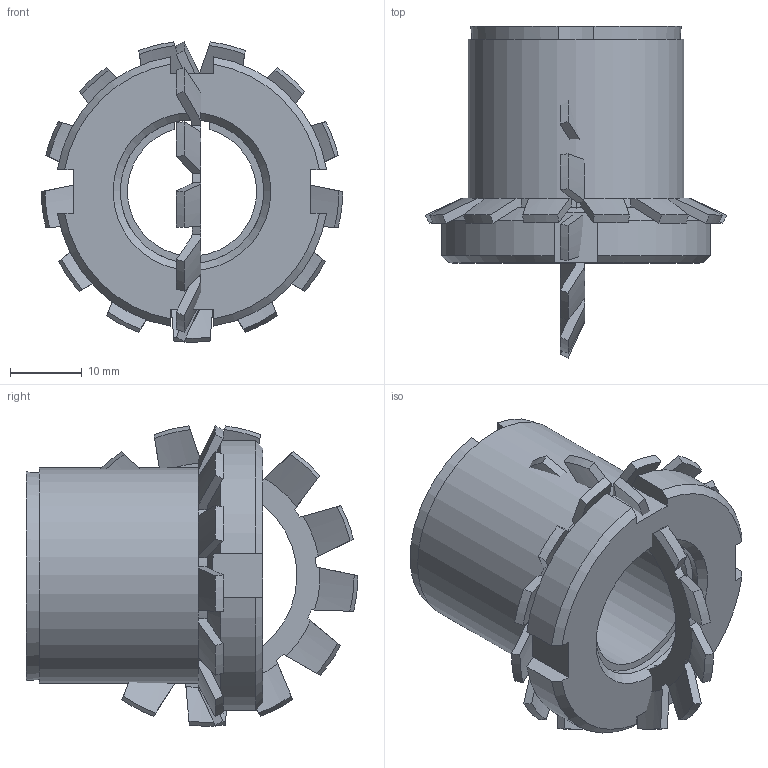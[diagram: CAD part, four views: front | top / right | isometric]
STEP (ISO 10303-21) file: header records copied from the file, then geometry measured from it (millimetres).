
FILE_DESCRIPTION( ( 'Unknown' ), '1' );
FILE_NAME( 'C:/Dokumente und Einstellungen/Sven/Desktop/homepage/cad - homepage/KBS55/KBS 55 - 18 x 30.stp', 'Unknown', ( 'Unknown' ), ( 'Unknown' ), 'XStep 1.0', 'Unknown', ' ' );
FILE_SCHEMA( ( 'automotive_design' ) );
Length unit declared in the file: millimetre
Products named in the file (3): Assem1; KBS 55 - 18 x 30; 08570053_locking_plate_din_5406_mb_5_2_14a
Bounding box: 42 x 46.25 x 41.83 mm (x, y, z)
Volume: 34708.5 mm3; surface area: 17420.2 mm2
Topology: 4 solids, 4 shells, 240 faces, 688 edges, 456 vertices
Faces by surface type: plane 104, cone 94, cylinder 42
Full cylindrical faces by diameter (mm): 20 x2, 30 x2
Entity records: 4268 total; most frequent: CARTESIAN_POINT 879, ORIENTED_EDGE 676, DIRECTION 640, EDGE_CURVE 338, AXIS2_PLACEMENT_3D 253, VERTEX_POINT 226, LINE 134, VECTOR 134
